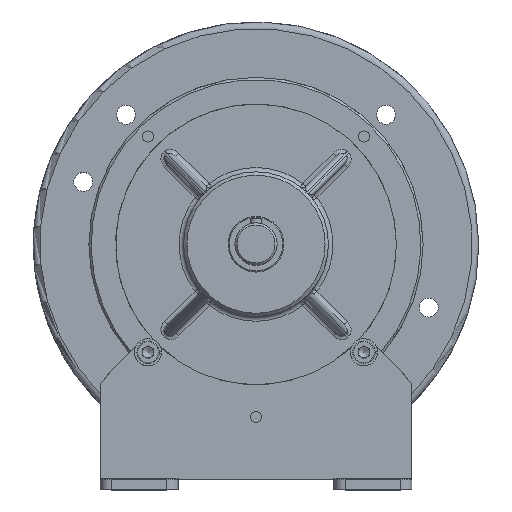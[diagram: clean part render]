
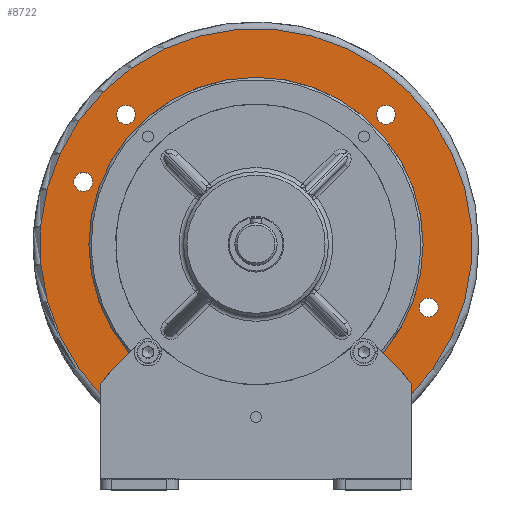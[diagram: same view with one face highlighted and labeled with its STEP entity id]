
A CAD part, top view. The second image highlights one B-rep face of the part: STEP entity #8722.
In plain terms, the highlighted planar face has unit normal (0, 0, 1).
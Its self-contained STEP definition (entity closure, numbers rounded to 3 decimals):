
#120 = DIRECTION ( 'NONE',  ( 0., 0., -1. ) ) ;
#165 = VECTOR ( 'NONE', #8996, 1000. ) ;
#211 = VERTEX_POINT ( 'NONE', #1924 ) ;
#374 = LINE ( 'NONE', #2900, #2223 ) ;
#486 = CARTESIAN_POINT ( 'NONE',  ( -48.5, 48.5, 17. ) ) ;
#682 = CARTESIAN_POINT ( 'NONE',  ( 73.275, -28.217, 17. ) ) ;
#688 = CARTESIAN_POINT ( 'NONE',  ( 68.589, -68.589, 17. ) ) ;
#728 = FACE_BOUND ( 'NONE', #7964, .T. ) ;
#943 = CARTESIAN_POINT ( 'NONE',  ( -58.336, 58.336, 17. ) ) ;
#958 = VERTEX_POINT ( 'NONE', #1367 ) ;
#996 = EDGE_CURVE ( 'NONE', #7398, #958, #6764, .T. ) ;
#1012 = CARTESIAN_POINT ( 'NONE',  ( 55.331, -55.331, 17. ) ) ;
#1183 = ORIENTED_EDGE ( 'NONE', *, *, #8553, .T. ) ;
#1229 = VERTEX_POINT ( 'NONE', #682 ) ;
#1367 = CARTESIAN_POINT ( 'NONE',  ( -51.265, -51.265, 17. ) ) ;
#1444 = CARTESIAN_POINT ( 'NONE',  ( 58.336, 58.336, 17. ) ) ;
#1454 = AXIS2_PLACEMENT_3D ( 'NONE', #6955, #8774, #8736 ) ;
#1592 = LINE ( 'NONE', #4747, #165 ) ;
#1711 = EDGE_LOOP ( 'NONE', ( #7159 ) ) ;
#1856 = DIRECTION ( 'NONE',  ( 0., 0., -1. ) ) ;
#1924 = CARTESIAN_POINT ( 'NONE',  ( 51.265, -51.265, 17. ) ) ;
#1961 = AXIS2_PLACEMENT_3D ( 'NONE', #1963, #1856, #10388 ) ;
#1963 = CARTESIAN_POINT ( 'NONE',  ( 58.336, -58.336, 17. ) ) ;
#1968 = ORIENTED_EDGE ( 'NONE', *, *, #5202, .T. ) ;
#2006 = CIRCLE ( 'NONE', #1961, 4.25 ) ;
#2085 = CARTESIAN_POINT ( 'NONE',  ( -77.525, 28.217, 17. ) ) ;
#2096 = CIRCLE ( 'NONE', #7720, 4.25 ) ;
#2223 = VECTOR ( 'NONE', #3661, 1000. ) ;
#2258 = AXIS2_PLACEMENT_3D ( 'NONE', #10438, #4540, #5359 ) ;
#2557 = EDGE_CURVE ( 'NONE', #6076, #5584, #2006, .T. ) ;
#2608 = CARTESIAN_POINT ( 'NONE',  ( 0., 0., 17. ) ) ;
#2652 = CIRCLE ( 'NONE', #3918, 72.5 ) ;
#2724 = CARTESIAN_POINT ( 'NONE',  ( 0., 0., 17. ) ) ;
#2900 = CARTESIAN_POINT ( 'NONE',  ( 48.5, 48.5, 17. ) ) ;
#2927 = DIRECTION ( 'NONE',  ( 0., 0., -1. ) ) ;
#2959 = FACE_BOUND ( 'NONE', #3945, .T. ) ;
#3164 = CARTESIAN_POINT ( 'NONE',  ( 48.5, 48.5, 17. ) ) ;
#3319 = CARTESIAN_POINT ( 'NONE',  ( -81.775, 28.217, 17. ) ) ;
#3321 = EDGE_CURVE ( 'NONE', #211, #6076, #1592, .T. ) ;
#3470 = EDGE_CURVE ( 'NONE', #6772, #6772, #5157, .T. ) ;
#3477 = VERTEX_POINT ( 'NONE', #3319 ) ;
#3661 = DIRECTION ( 'NONE',  ( 0.707, 0.707, 0. ) ) ;
#3666 = EDGE_CURVE ( 'NONE', #211, #958, #2652, .T. ) ;
#3918 = AXIS2_PLACEMENT_3D ( 'NONE', #2608, #9368, #5799 ) ;
#3945 = EDGE_LOOP ( 'NONE', ( #10259 ) ) ;
#4277 = CIRCLE ( 'NONE', #4503, 97. ) ;
#4331 = ORIENTED_EDGE ( 'NONE', *, *, #6006, .T. ) ;
#4452 = EDGE_CURVE ( 'NONE', #1229, #1229, #2096, .T. ) ;
#4503 = AXIS2_PLACEMENT_3D ( 'NONE', #2724, #6022, #8512 ) ;
#4540 = DIRECTION ( 'NONE',  ( 0., 0., -1. ) ) ;
#4747 = CARTESIAN_POINT ( 'NONE',  ( -48.5, 48.5, 17. ) ) ;
#5013 = ORIENTED_EDGE ( 'NONE', *, *, #7148, .T. ) ;
#5119 = VERTEX_POINT ( 'NONE', #8024 ) ;
#5157 = CIRCLE ( 'NONE', #8320, 4.25 ) ;
#5202 = EDGE_CURVE ( 'NONE', #5584, #6437, #9233, .T. ) ;
#5359 = DIRECTION ( 'NONE',  ( -1., 0., 0. ) ) ;
#5430 = PLANE ( 'NONE',  #2258 ) ;
#5432 = CARTESIAN_POINT ( 'NONE',  ( -68.589, -68.589, 17. ) ) ;
#5539 = EDGE_LOOP ( 'NONE', ( #5781 ) ) ;
#5548 = DIRECTION ( 'NONE',  ( 0.707, -0.707, 0. ) ) ;
#5562 = DIRECTION ( 'NONE',  ( 0.707, 0.707, 0. ) ) ;
#5584 = VERTEX_POINT ( 'NONE', #6949 ) ;
#5693 = EDGE_CURVE ( 'NONE', #3477, #3477, #8941, .T. ) ;
#5781 = ORIENTED_EDGE ( 'NONE', *, *, #6140, .T. ) ;
#5799 = DIRECTION ( 'NONE',  ( 1., 0., 0. ) ) ;
#5830 = DIRECTION ( 'NONE',  ( 0., 0., -1. ) ) ;
#6006 = EDGE_CURVE ( 'NONE', #6258, #5119, #374, .T. ) ;
#6022 = DIRECTION ( 'NONE',  ( 0., 0., 1. ) ) ;
#6040 = AXIS2_PLACEMENT_3D ( 'NONE', #943, #120, #9451 ) ;
#6076 = VERTEX_POINT ( 'NONE', #1012 ) ;
#6140 = EDGE_CURVE ( 'NONE', #8091, #8091, #10419, .T. ) ;
#6258 = VERTEX_POINT ( 'NONE', #5432 ) ;
#6403 = ORIENTED_EDGE ( 'NONE', *, *, #3321, .T. ) ;
#6437 = VERTEX_POINT ( 'NONE', #688 ) ;
#6457 = ORIENTED_EDGE ( 'NONE', *, *, #996, .T. ) ;
#6764 = LINE ( 'NONE', #3164, #7949 ) ;
#6772 = VERTEX_POINT ( 'NONE', #10800 ) ;
#6817 = VECTOR ( 'NONE', #5548, 1000. ) ;
#6949 = CARTESIAN_POINT ( 'NONE',  ( 61.342, -61.342, 17. ) ) ;
#6955 = CARTESIAN_POINT ( 'NONE',  ( -58.336, -58.336, 17. ) ) ;
#7148 = EDGE_CURVE ( 'NONE', #5119, #7398, #7465, .T. ) ;
#7159 = ORIENTED_EDGE ( 'NONE', *, *, #5693, .T. ) ;
#7251 = EDGE_LOOP ( 'NONE', ( #6403, #8930, #1968, #1183, #4331, #5013, #6457, #9645 ) ) ;
#7398 = VERTEX_POINT ( 'NONE', #10782 ) ;
#7465 = CIRCLE ( 'NONE', #1454, 4.25 ) ;
#7591 = CARTESIAN_POINT ( 'NONE',  ( -62.586, 58.336, 17. ) ) ;
#7720 = AXIS2_PLACEMENT_3D ( 'NONE', #10881, #5830, #10949 ) ;
#7949 = VECTOR ( 'NONE', #5562, 1000. ) ;
#7964 = EDGE_LOOP ( 'NONE', ( #10151 ) ) ;
#8024 = CARTESIAN_POINT ( 'NONE',  ( -61.342, -61.342, 17. ) ) ;
#8091 = VERTEX_POINT ( 'NONE', #7591 ) ;
#8098 = FACE_BOUND ( 'NONE', #5539, .T. ) ;
#8320 = AXIS2_PLACEMENT_3D ( 'NONE', #1444, #10806, #10027 ) ;
#8512 = DIRECTION ( 'NONE',  ( 1., 0., 0. ) ) ;
#8553 = EDGE_CURVE ( 'NONE', #6437, #6258, #4277, .T. ) ;
#8722 = ADVANCED_FACE ( 'NONE', ( #8098, #9710, #2959, #728, #9454 ), #5430, .F. ) ;
#8736 = DIRECTION ( 'NONE',  ( -1., 0., 0. ) ) ;
#8774 = DIRECTION ( 'NONE',  ( 0., 0., -1. ) ) ;
#8877 = DIRECTION ( 'NONE',  ( -1., 0., 0. ) ) ;
#8930 = ORIENTED_EDGE ( 'NONE', *, *, #2557, .T. ) ;
#8941 = CIRCLE ( 'NONE', #9527, 4.25 ) ;
#8996 = DIRECTION ( 'NONE',  ( 0.707, -0.707, 0. ) ) ;
#9233 = LINE ( 'NONE', #486, #6817 ) ;
#9368 = DIRECTION ( 'NONE',  ( 0., 0., 1. ) ) ;
#9451 = DIRECTION ( 'NONE',  ( -1., 0., 0. ) ) ;
#9454 = FACE_OUTER_BOUND ( 'NONE', #7251, .T. ) ;
#9527 = AXIS2_PLACEMENT_3D ( 'NONE', #2085, #2927, #8877 ) ;
#9645 = ORIENTED_EDGE ( 'NONE', *, *, #3666, .F. ) ;
#9710 = FACE_BOUND ( 'NONE', #1711, .T. ) ;
#10027 = DIRECTION ( 'NONE',  ( -1., 0., 0. ) ) ;
#10151 = ORIENTED_EDGE ( 'NONE', *, *, #3470, .T. ) ;
#10259 = ORIENTED_EDGE ( 'NONE', *, *, #4452, .T. ) ;
#10388 = DIRECTION ( 'NONE',  ( -1., 0., 0. ) ) ;
#10419 = CIRCLE ( 'NONE', #6040, 4.25 ) ;
#10438 = CARTESIAN_POINT ( 'NONE',  ( 0., 97., 17. ) ) ;
#10782 = CARTESIAN_POINT ( 'NONE',  ( -55.331, -55.331, 17. ) ) ;
#10800 = CARTESIAN_POINT ( 'NONE',  ( 54.086, 58.336, 17. ) ) ;
#10806 = DIRECTION ( 'NONE',  ( 0., 0., -1. ) ) ;
#10881 = CARTESIAN_POINT ( 'NONE',  ( 77.525, -28.217, 17. ) ) ;
#10949 = DIRECTION ( 'NONE',  ( -1., 0., 0. ) ) ;
